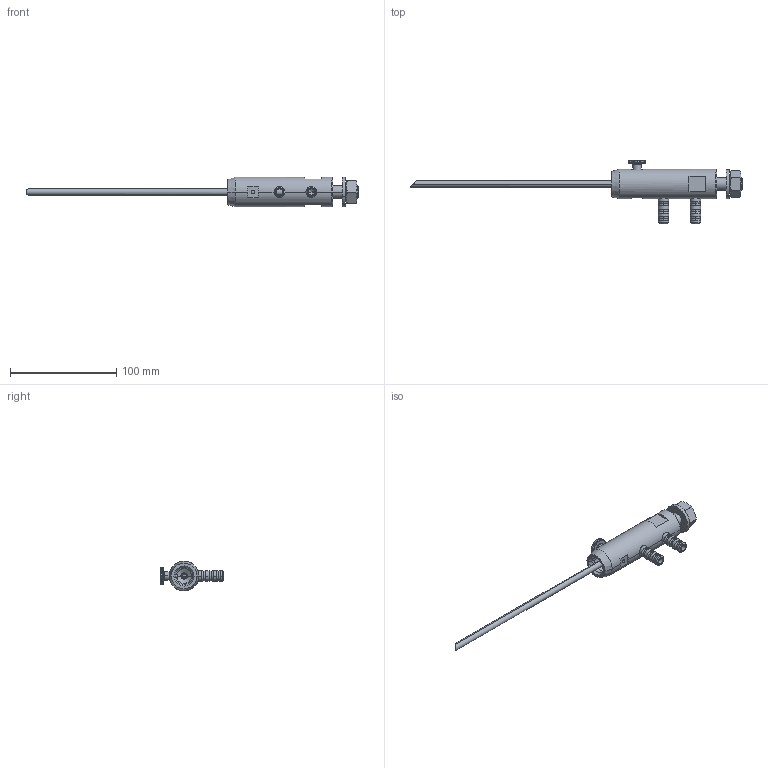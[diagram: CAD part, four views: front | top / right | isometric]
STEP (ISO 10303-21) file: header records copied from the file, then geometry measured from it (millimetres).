
FILE_DESCRIPTION((''),'2;1');
FILE_NAME('W:\214-178.stp','2004-01-23T14:49:59',('KAA'),(''),'Autodesk Inventor (R) 6.0','Autodesk Inventor (R) 6.0','');
FILE_SCHEMA(('CONFIG_CONTROL_DESIGN'));
Length unit declared in the file: millimetre
Products named in the file (1): 214-178
Bounding box: 313 x 60 x 28 mm (x, y, z)
Volume: 60108 mm3; surface area: 29287.8 mm2
Topology: 7 solids, 7 shells, 289 faces, 732 edges, 461 vertices
Faces by surface type: plane 113, cylinder 62, bspline 56, cone 50, torus 8
Entity records: 9995 total; most frequent: CARTESIAN_POINT 3428, ORIENTED_EDGE 1460, DIRECTION 1324, EDGE_CURVE 730, AXIS2_PLACEMENT_3D 549, VERTEX_POINT 461, EDGE_LOOP 313, CIRCLE 309
